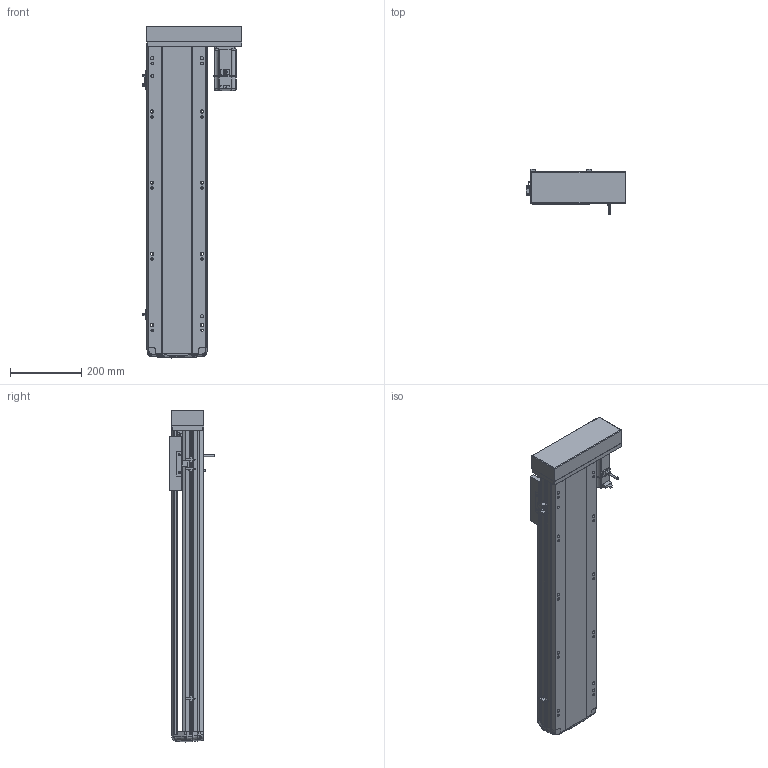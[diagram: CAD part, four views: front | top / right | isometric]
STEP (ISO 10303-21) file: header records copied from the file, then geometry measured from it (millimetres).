
FILE_DESCRIPTION (( 'STEP AP214' ), '1' );
FILE_NAME ('RTH17-XX-650-L-M40-C4.STEP', '2025-10-24T08:46:41', ( '' ), ( '' ), 'SwSTEP 2.0', 'SolidWorks 2018', '' );
FILE_SCHEMA (( 'AUTOMOTIVE_DESIGN' ));
Length unit declared in the file: millimetre
Products named in the file (10): N_RTH17-E-004丝杆螺母连接座^RTH17-XX-XX-L-M40-C4（方程式）; N_RTH-BL-012 感应片(外置)^RTH17-XX-XX-L-M40-C4（方程式）; N_RTH17-GY-001P^RTH17-XX-XX-L-M40-C4（方程式）; N_RTH17-M-011底座^RTH17-XX-XX-L-M40-C4（方程式）; N_M40^RTH17-XX-XX-L-M40-C4（方程式）; N_RTH17-M-007上盖^RTH17-XX-XX-L-M40-C4（方程式）; N_OMRON EE-SX672 換覜ん^RTH17-XX-XX-L-M40-C4ㄗ源最宒ㄘ; N_RTH17-L-018盖子^RTH17-XX-XX-L-M40-C4（方程式）; RTH17-XX-650-L-M40-C4; N_RTH17-L-008-P40电机安装板左转折^RTH17-XX-XX-L-M40-C4（方程式）
Assembly tree (11 placements, depth 2):
  RTH17-XX-650-L-M40-C4
    N_RTH17-M-011底座^RTH17-XX-XX-L-M40-C4（方程式）
    N_RTH17-M-007上盖^RTH17-XX-XX-L-M40-C4（方程式）
    N_M40^RTH17-XX-XX-L-M40-C4（方程式）
    N_OMRON EE-SX672 換覜ん^RTH17-XX-XX-L-M40-C4ㄗ源最宒ㄘ  x3
    N_RTH-BL-012 感应片(外置)^RTH17-XX-XX-L-M40-C4（方程式）
    N_RTH17-L-008-P40电机安装板左转折^RTH17-XX-XX-L-M40-C4（方程式）
    N_RTH17-L-018盖子^RTH17-XX-XX-L-M40-C4（方程式）
    N_RTH17-E-004丝杆螺母连接座^RTH17-XX-XX-L-M40-C4（方程式）
    N_RTH17-GY-001P^RTH17-XX-XX-L-M40-C4（方程式）
Bounding box: 281 x 127 x 932.99 mm (x, y, z)
Volume: 8441529 mm3; surface area: 1085696.9 mm2
Topology: 13 solids, 15 shells, 1647 faces, 4575 edges, 2982 vertices
Faces by surface type: plane 833, cylinder 447, bspline 330, cone 28, torus 9
Entity records: 47838 total; most frequent: CARTESIAN_POINT 19381, ORIENTED_EDGE 6174, DIRECTION 5089, EDGE_CURVE 3091, VERTEX_POINT 2018, LINE 1747, VECTOR 1747, AXIS2_PLACEMENT_3D 1671
